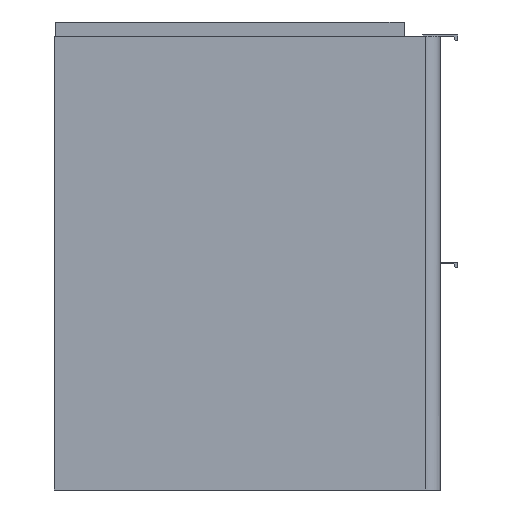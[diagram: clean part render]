
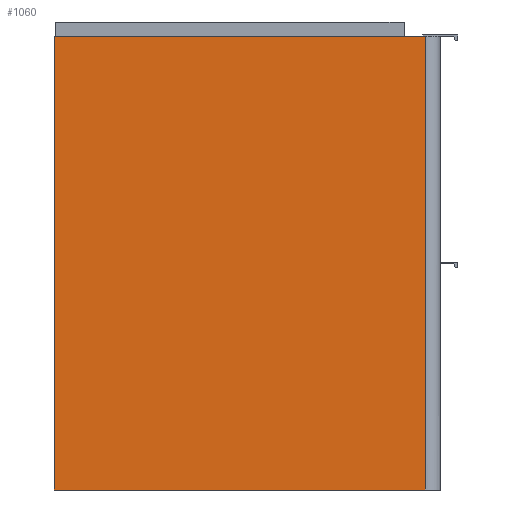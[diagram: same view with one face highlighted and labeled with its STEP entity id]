
A CAD part, left-side view. The second image highlights one B-rep face of the part: STEP entity #1060.
In plain terms, the highlighted planar face has unit normal (-1, 0, 0).
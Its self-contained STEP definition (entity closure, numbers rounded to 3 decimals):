
#1060=ADVANCED_FACE('',(#1657),#10995,.T.);
#1657=FACE_OUTER_BOUND('',#2352,.T.);
#2352=EDGE_LOOP('',(#5767,#5768,#5769,#5770));
#5767=ORIENTED_EDGE('',*,*,#7558,.F.);
#5768=ORIENTED_EDGE('',*,*,#7565,.T.);
#5769=ORIENTED_EDGE('',*,*,#7566,.T.);
#5770=ORIENTED_EDGE('',*,*,#7561,.T.);
#7558=EDGE_CURVE('',#10535,#10536,#9306,.T.);
#7561=EDGE_CURVE('',#10538,#10536,#9308,.T.);
#7565=EDGE_CURVE('',#10535,#10541,#9312,.T.);
#7566=EDGE_CURVE('',#10541,#10538,#9313,.T.);
#9306=B_SPLINE_CURVE_WITH_KNOTS('',1,(#20458,#20459),.UNSPECIFIED.,.F.,
 .F.,(2,2),(0.,515.),.UNSPECIFIED.);
#9308=B_SPLINE_CURVE_WITH_KNOTS('',1,(#20465,#20466),.UNSPECIFIED.,.F.,
 .F.,(2,2),(-421.,0.),.UNSPECIFIED.);
#9312=B_SPLINE_CURVE_WITH_KNOTS('',1,(#20473,#20474),.UNSPECIFIED.,.F.,
 .F.,(2,2),(-421.,0.),.UNSPECIFIED.);
#9313=B_SPLINE_CURVE_WITH_KNOTS('',1,(#20475,#20476),.UNSPECIFIED.,.F.,
 .F.,(2,2),(-515.,0.),.UNSPECIFIED.);
#10535=VERTEX_POINT('',#20446);
#10536=VERTEX_POINT('',#20447);
#10538=VERTEX_POINT('',#20449);
#10541=VERTEX_POINT('',#20452);
#10995=PLANE('',#12109);
#12109=AXIS2_PLACEMENT_3D('',#20440,#12680,$);
#12680=DIRECTION('',(-1.,0.,0.));
#20440=CARTESIAN_POINT('',(-579.5,261.22,-51.62));
#20446=CARTESIAN_POINT('',(-579.5,-202.,515.));
#20447=CARTESIAN_POINT('',(-579.5,-202.,0.));
#20449=CARTESIAN_POINT('',(-579.5,219.,0.));
#20452=CARTESIAN_POINT('',(-579.5,219.,515.));
#20458=CARTESIAN_POINT('',(-579.5,-202.,515.));
#20459=CARTESIAN_POINT('',(-579.5,-202.,0.));
#20465=CARTESIAN_POINT('',(-579.5,219.,0.));
#20466=CARTESIAN_POINT('',(-579.5,-202.,0.));
#20473=CARTESIAN_POINT('',(-579.5,-202.,515.));
#20474=CARTESIAN_POINT('',(-579.5,219.,515.));
#20475=CARTESIAN_POINT('',(-579.5,219.,515.));
#20476=CARTESIAN_POINT('',(-579.5,219.,0.));
